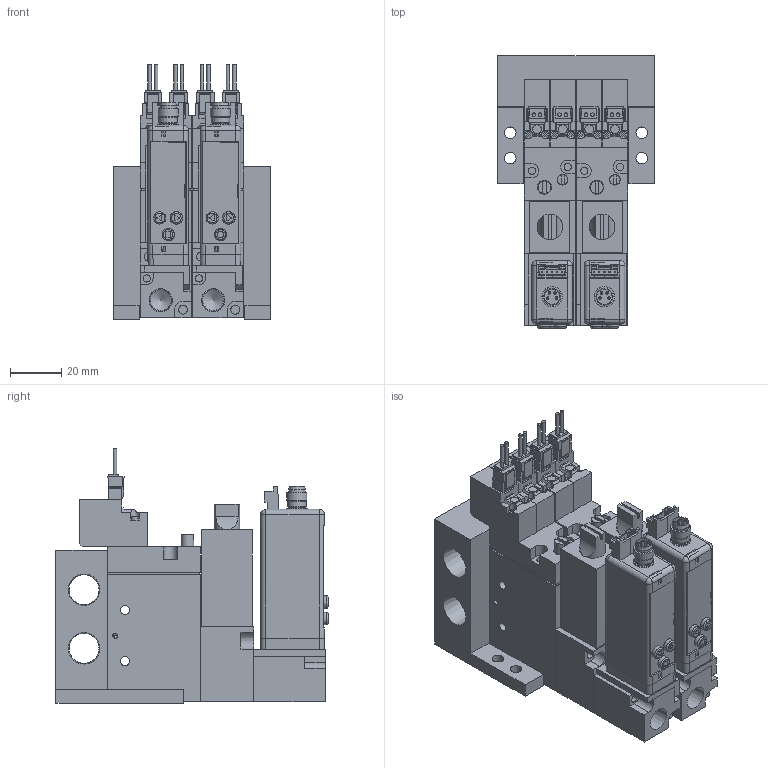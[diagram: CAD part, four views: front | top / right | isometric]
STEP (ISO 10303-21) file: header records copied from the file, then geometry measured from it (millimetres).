
FILE_DESCRIPTION(('STEP AP203'),'1');
FILE_NAME('BMPV32M2N20225BL202.stp','2025-06-16T08:59:10',(' '),(' '),'Spatial InterOp 3D',' ',' ');
FILE_SCHEMA(('CONFIG_CONTROL_DESIGN'));
Length unit declared in the file: millimetre
Products named in the file (28): BMPV32M2N20225BL202; MVS-202; ___-3(Rc); Filter Assy; __; _____; ___ ___; MB BRACKET; MB02; ___; upper plate-A; ______; ____; VACUUM VALVE FUNCTION MPV42-A
Assembly tree (27 placements, depth 2):
  BMPV32M2N20225BL202
    MVS-202
    ___-3(Rc)
    Filter Assy
    __
    _____
    ___ ___
    MB BRACKET
    MB02
    MB BRACKET
    MVS-202
    ___-3(Rc)
    Filter Assy
    __
    _____
    ___ ___
    ___
    upper plate-A
    ______
    ____
    VACUUM VALVE FUNCTION MPV42-A
    VACUUM VALVE FUNCTION MPV42-A
    ___
    upper plate-A
    ______
    ____
    VACUUM VALVE FUNCTION MPV42-A
    VACUUM VALVE FUNCTION MPV42-A
Bounding box: 61.5 x 106.6 x 99.75 mm (x, y, z)
Volume: 272218.4 mm3; surface area: 97367.9 mm2
Topology: 27 solids, 35 shells, 1573 faces, 4022 edges, 2638 vertices
Faces by surface type: plane 1275, cylinder 244, cone 40, sphere 8, torus 6
Full cylindrical faces by diameter (mm): 1 x8, 1.4 x8, 1.5 x2, 1.8 x4, 2 x4, 2.5 x8, 2.8 x8, 3 x8, 3.5 x24, 4 x2, 4.2 x2, 4.5 x12, 4.8 x6, 5 x6, 5.5 x2, 5.8 x4, 6 x2, 6.5 x12, 7 x2, 7.2 x2, 7.9 x2, 8 x4, 8.2 x2, 8.759 x2, 11.776 x2
Entity records: 47434 total; most frequent: CARTESIAN_POINT 8251, DIRECTION 7558, ORIENTED_EDGE 7544, EDGE_CURVE 3772, LINE 3124, VECTOR 3124, VERTEX_POINT 2598, AXIS2_PLACEMENT_3D 2217
